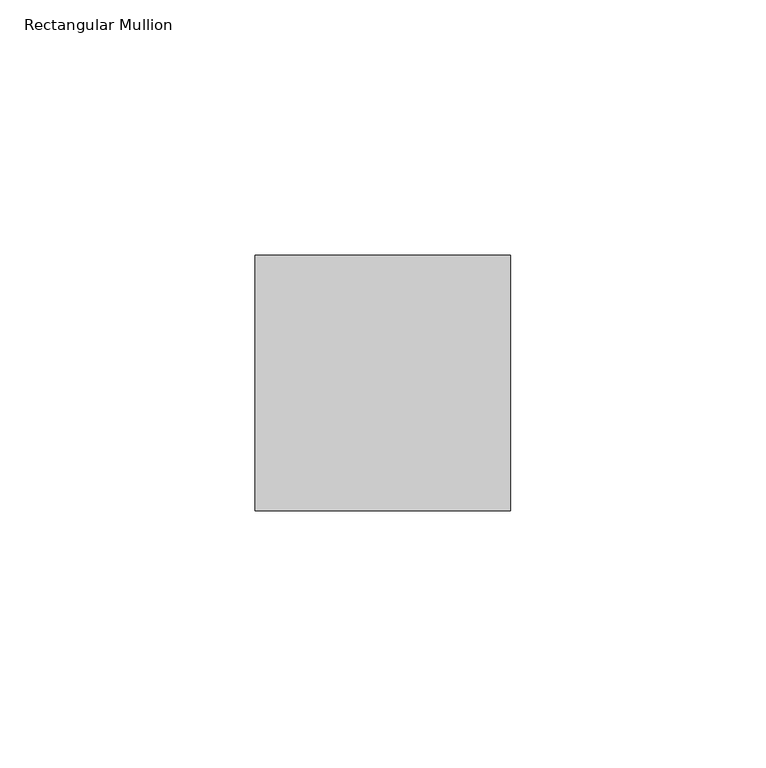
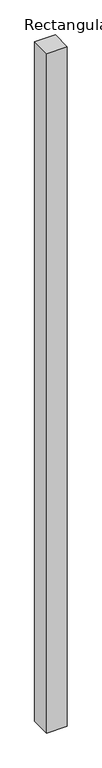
"""IFC4 building model written with IfcOpenShell, lengths in millimetres: member geometry, Rectangular Mullion : Mullion_Curtain Wall_Generic Showcase_50x50mm."""

from ifc_helpers import new_model, si_unit, frame, origin, place, context, project, spatial, polyline, outline, extrude, source, transform, mapped, element, save


def rectangular_mullion_af3bd679(model_context):
    return source(origin(), model_context, "Body", "SweptSolid", [
        extrude(outline(polyline([(0.0, 50.0), (0.0, 0.0), (-50.0, 0.0), (-50.0, 50.0), (0.0, 50.0)])), frame((0.0, 0.0, -1738.479996), z_axis=(0.0, 0.0, 1.0), x_axis=(1.0, 0.0, 0.0)), (0.0, 0.0, 1.0), 1738.479996),
    ])


if __name__ == "__main__":
    model = new_model("IFC4")
    model_context = context("Model", 3, world=origin())
    ifc_project = project(units=[si_unit("LENGTHUNIT", "METRE", prefix="MILLI")], contexts=[model_context])
    site = spatial("IfcSite", under=ifc_project)
    building = spatial("IfcBuilding", under=site)
    placement = place(None, origin())
    rectangular_mullion_shape = rectangular_mullion_af3bd679(model_context)
    element("IfcMember", 1, ObjectType="Rectangular Mullion : Mullion_Curtain Wall_Generic Showcase_50x50mm", at=placement, inside=building, context=model_context, shape_type="MappedRepresentation", body=[
        mapped(rectangular_mullion_shape, transform((0.0, 0.0, 0.0), x_axis=(1.0, 0.0, 0.0), y_axis=(0.0, 1.0, 0.0), z_axis=(0.0, 0.0, 1.0))),
    ])
    save(model, "model.ifc")
